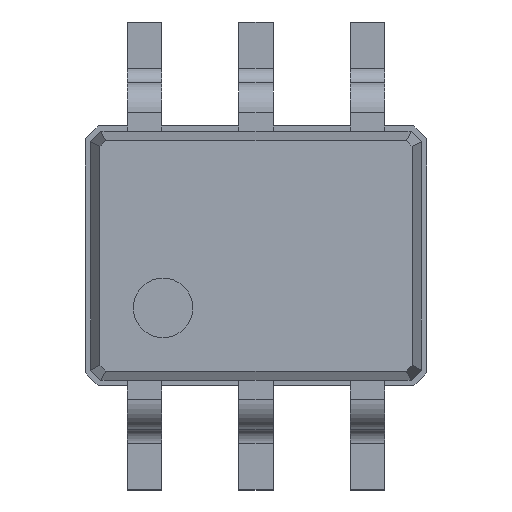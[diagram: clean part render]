
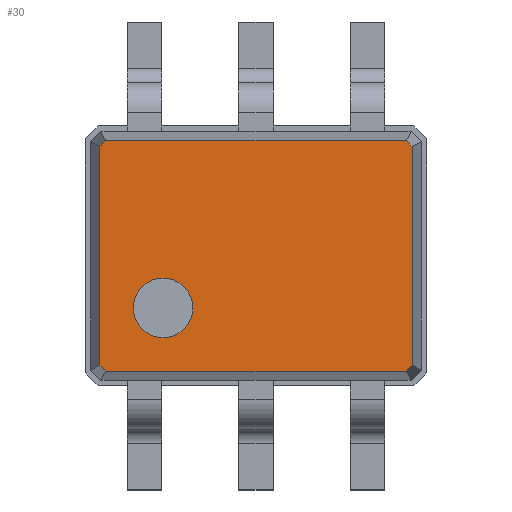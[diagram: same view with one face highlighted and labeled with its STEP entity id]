
A CAD part, top view. The second image highlights one B-rep face of the part: STEP entity #30.
In plain terms, the highlighted planar face has unit normal (0, 0, 1).
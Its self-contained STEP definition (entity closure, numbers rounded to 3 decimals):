
#13=DIRECTION('',(0.,0.,1.));
#21=EDGE_CURVE('',#22,#22,#24,.T.);
#22=VERTEX_POINT('',#23);
#23=CARTESIAN_POINT('',(-0.852,-0.702,1.7));
#24=CIRCLE('',#25,0.4);
#25=AXIS2_PLACEMENT_3D('',#26,#27,#28);
#26=CARTESIAN_POINT('',(-1.252,-0.702,1.7));
#27=DIRECTION('',(0.,0.,-1.));
#28=DIRECTION('',(1.,0.,0.));
#30=ADVANCED_FACE('',(#31,#88),#91,.T.);
#31=FACE_BOUND('',#32,.T.);
#32=EDGE_LOOP('',(#33,#42,#49,#56,#63,#70,#77,#83));
#33=ORIENTED_EDGE('',*,*,#34,.F.);
#34=EDGE_CURVE('',#35,#37,#39,.T.);
#35=VERTEX_POINT('',#36);
#36=CARTESIAN_POINT('',(-2.102,-1.476,1.7));
#37=VERTEX_POINT('',#38);
#38=CARTESIAN_POINT('',(-2.102,1.476,1.7));
#39=LINE('',#36,#40);
#40=VECTOR('',#41,1.);
#41=DIRECTION('',(0.,1.,0.));
#42=ORIENTED_EDGE('',*,*,#43,.F.);
#43=EDGE_CURVE('',#44,#35,#46,.T.);
#44=VERTEX_POINT('',#45);
#45=CARTESIAN_POINT('',(-2.026,-1.552,1.7));
#46=LINE('',#45,#47);
#47=VECTOR('',#48,1.);
#48=DIRECTION('',(-0.707,0.707,0.));
#49=ORIENTED_EDGE('',*,*,#50,.F.);
#50=EDGE_CURVE('',#51,#44,#53,.T.);
#51=VERTEX_POINT('',#52);
#52=CARTESIAN_POINT('',(2.026,-1.552,1.7));
#53=LINE('',#52,#54);
#54=VECTOR('',#55,1.);
#55=DIRECTION('',(-1.,0.,0.));
#56=ORIENTED_EDGE('',*,*,#57,.F.);
#57=EDGE_CURVE('',#58,#51,#60,.T.);
#58=VERTEX_POINT('',#59);
#59=CARTESIAN_POINT('',(2.102,-1.476,1.7));
#60=LINE('',#59,#61);
#61=VECTOR('',#62,1.);
#62=DIRECTION('',(-0.707,-0.707,0.));
#63=ORIENTED_EDGE('',*,*,#64,.F.);
#64=EDGE_CURVE('',#65,#58,#67,.T.);
#65=VERTEX_POINT('',#66);
#66=CARTESIAN_POINT('',(2.102,1.476,1.7));
#67=LINE('',#66,#68);
#68=VECTOR('',#69,1.);
#69=DIRECTION('',(0.,-1.,0.));
#70=ORIENTED_EDGE('',*,*,#71,.F.);
#71=EDGE_CURVE('',#72,#65,#74,.T.);
#72=VERTEX_POINT('',#73);
#73=CARTESIAN_POINT('',(2.026,1.552,1.7));
#74=LINE('',#73,#75);
#75=VECTOR('',#76,1.);
#76=DIRECTION('',(0.707,-0.707,0.));
#77=ORIENTED_EDGE('',*,*,#78,.F.);
#78=EDGE_CURVE('',#79,#72,#81,.T.);
#79=VERTEX_POINT('',#80);
#80=CARTESIAN_POINT('',(-2.026,1.552,1.7));
#81=LINE('',#80,#82);
#82=VECTOR('',#28,1.);
#83=ORIENTED_EDGE('',*,*,#84,.F.);
#84=EDGE_CURVE('',#37,#79,#85,.T.);
#85=LINE('',#38,#86);
#86=VECTOR('',#87,1.);
#87=DIRECTION('',(0.707,0.707,0.));
#88=FACE_BOUND('',#89,.T.);
#89=EDGE_LOOP('',(#90));
#90=ORIENTED_EDGE('',*,*,#21,.T.);
#91=PLANE('',#92);
#92=AXIS2_PLACEMENT_3D('',#36,#13,#93);
#93=DIRECTION('',(0.818,0.575,0.));
